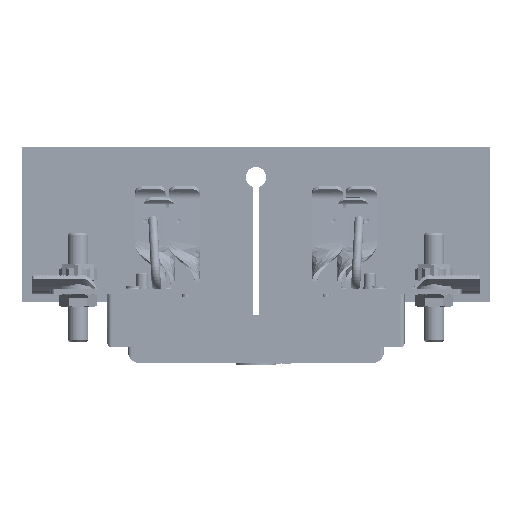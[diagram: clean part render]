
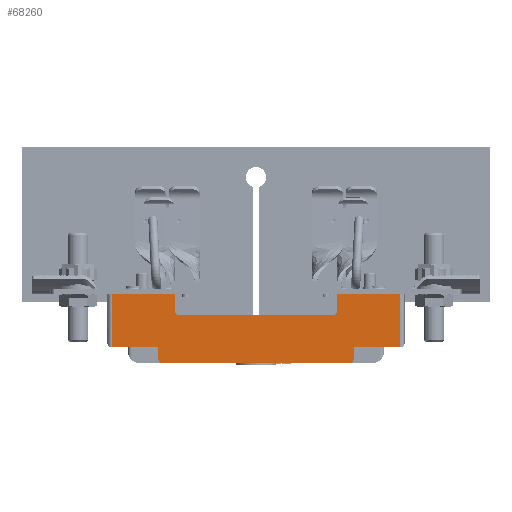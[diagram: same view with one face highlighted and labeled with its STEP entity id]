
A CAD part, left-side view. The second image highlights one B-rep face of the part: STEP entity #68260.
In plain terms, the highlighted planar face has unit normal (-1, 0, 0).
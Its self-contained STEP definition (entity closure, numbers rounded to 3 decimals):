
#569 = DIRECTION ( 'NONE',  ( 0., -1., 0. ) ) ;
#1779 = ORIENTED_EDGE ( 'NONE', *, *, #29269, .T. ) ;
#1979 = DIRECTION ( 'NONE',  ( -1., 0., 0. ) ) ;
#2095 = LINE ( 'NONE', #80307, #33996 ) ;
#2219 = CARTESIAN_POINT ( 'NONE',  ( -79., 48., 2. ) ) ;
#2255 = LINE ( 'NONE', #43474, #64981 ) ;
#4709 = DIRECTION ( 'NONE',  ( 0., 0.61, 0.793 ) ) ;
#5246 = EDGE_CURVE ( 'NONE', #38274, #59413, #2255, .T. ) ;
#6075 = CARTESIAN_POINT ( 'NONE',  ( -79., -71., 8. ) ) ;
#6695 = EDGE_CURVE ( 'NONE', #12936, #75277, #81984, .T. ) ;
#6901 = ORIENTED_EDGE ( 'NONE', *, *, #30747, .T. ) ;
#7049 = DIRECTION ( 'NONE',  ( 0., 1., 0. ) ) ;
#7331 = ORIENTED_EDGE ( 'NONE', *, *, #13936, .T. ) ;
#8439 = CARTESIAN_POINT ( 'NONE',  ( -79., -73., 8. ) ) ;
#8487 = DIRECTION ( 'NONE',  ( -1., 0., 0. ) ) ;
#9185 = ORIENTED_EDGE ( 'NONE', *, *, #6695, .T. ) ;
#12341 = CARTESIAN_POINT ( 'NONE',  ( -79., -38.846, 24. ) ) ;
#12936 = VERTEX_POINT ( 'NONE', #74488 ) ;
#13936 = EDGE_CURVE ( 'NONE', #84881, #24533, #31200, .T. ) ;
#14599 = LINE ( 'NONE', #54294, #52817 ) ;
#14861 = CARTESIAN_POINT ( 'NONE',  ( -79., 46., 0. ) ) ;
#14871 = ORIENTED_EDGE ( 'NONE', *, *, #86168, .T. ) ;
#15048 = DIRECTION ( 'NONE',  ( 0., 0., -1. ) ) ;
#15470 = CARTESIAN_POINT ( 'NONE',  ( -79., 40., 34. ) ) ;
#15835 = DIRECTION ( 'NONE',  ( 0., 1., 0. ) ) ;
#16181 = EDGE_CURVE ( 'NONE', #25002, #84881, #99611, .T. ) ;
#16747 = DIRECTION ( 'NONE',  ( 0., 1., 0. ) ) ;
#18052 = DIRECTION ( 'NONE',  ( 0., 0., -1. ) ) ;
#19697 = CARTESIAN_POINT ( 'NONE',  ( -79., 38.846, 24. ) ) ;
#20166 = CARTESIAN_POINT ( 'NONE',  ( -79., 40., 25.5 ) ) ;
#20670 = AXIS2_PLACEMENT_3D ( 'NONE', #41168, #1979, #56975 ) ;
#21315 = CARTESIAN_POINT ( 'NONE',  ( -79., 40., 25.5 ) ) ;
#21333 = VECTOR ( 'NONE', #50559, 1000. ) ;
#24533 = VERTEX_POINT ( 'NONE', #63570 ) ;
#24707 = DIRECTION ( 'NONE',  ( 0., 1., 0. ) ) ;
#25002 = VERTEX_POINT ( 'NONE', #88113 ) ;
#25062 = CARTESIAN_POINT ( 'NONE',  ( -79., -38.846, 24. ) ) ;
#26251 = LINE ( 'NONE', #61420, #95026 ) ;
#26933 = CARTESIAN_POINT ( 'NONE',  ( -79., 48., 0. ) ) ;
#27478 = ORIENTED_EDGE ( 'NONE', *, *, #72237, .T. ) ;
#28843 = CARTESIAN_POINT ( 'NONE',  ( -79., 59., 6. ) ) ;
#28850 = VECTOR ( 'NONE', #81096, 1000. ) ;
#29001 = VECTOR ( 'NONE', #97583, 1000. ) ;
#29092 = CIRCLE ( 'NONE', #20670, 2. ) ;
#29269 = EDGE_CURVE ( 'NONE', #75277, #83732, #58473, .T. ) ;
#30747 = EDGE_CURVE ( 'NONE', #24533, #55169, #26251, .T. ) ;
#31200 = LINE ( 'NONE', #79766, #21333 ) ;
#33996 = VECTOR ( 'NONE', #16747, 1000. ) ;
#34117 = VERTEX_POINT ( 'NONE', #12341 ) ;
#34501 = EDGE_CURVE ( 'NONE', #39991, #38274, #85896, .T. ) ;
#36316 = VECTOR ( 'NONE', #24707, 1000. ) ;
#38274 = VERTEX_POINT ( 'NONE', #21315 ) ;
#39991 = VERTEX_POINT ( 'NONE', #19697 ) ;
#40222 = ORIENTED_EDGE ( 'NONE', *, *, #101407, .T. ) ;
#41168 = CARTESIAN_POINT ( 'NONE',  ( -79., -46., 2. ) ) ;
#41596 = VERTEX_POINT ( 'NONE', #2219 ) ;
#43474 = CARTESIAN_POINT ( 'NONE',  ( -79., 40., 25.5 ) ) ;
#44055 = DIRECTION ( 'NONE',  ( 0., 0., -1. ) ) ;
#44074 = AXIS2_PLACEMENT_3D ( 'NONE', #28843, #59877, #44055 ) ;
#44765 = ORIENTED_EDGE ( 'NONE', *, *, #49674, .T. ) ;
#46903 = FACE_OUTER_BOUND ( 'NONE', #79449, .T. ) ;
#47430 = ORIENTED_EDGE ( 'NONE', *, *, #100921, .T. ) ;
#48355 = EDGE_CURVE ( 'NONE', #55169, #51255, #14599, .T. ) ;
#49674 = EDGE_CURVE ( 'NONE', #60696, #25002, #82070, .T. ) ;
#50559 = DIRECTION ( 'NONE',  ( 0., 0., 1. ) ) ;
#50565 = CARTESIAN_POINT ( 'NONE',  ( -79., -40., 25.5 ) ) ;
#50615 = CARTESIAN_POINT ( 'NONE',  ( -79., -48., 2. ) ) ;
#50878 = ORIENTED_EDGE ( 'NONE', *, *, #16181, .T. ) ;
#51234 = EDGE_CURVE ( 'NONE', #51255, #34117, #83188, .T. ) ;
#51255 = VERTEX_POINT ( 'NONE', #50565 ) ;
#52817 = VECTOR ( 'NONE', #15048, 1000. ) ;
#54294 = CARTESIAN_POINT ( 'NONE',  ( -79., -40., 25.5 ) ) ;
#54618 = CARTESIAN_POINT ( 'NONE',  ( -79., 46., 2. ) ) ;
#54856 = CARTESIAN_POINT ( 'NONE',  ( -79., 71., 8. ) ) ;
#55169 = VERTEX_POINT ( 'NONE', #62481 ) ;
#56098 = LINE ( 'NONE', #25062, #36316 ) ;
#56975 = DIRECTION ( 'NONE',  ( 0., 0., -1. ) ) ;
#58473 = LINE ( 'NONE', #96203, #28850 ) ;
#59413 = VERTEX_POINT ( 'NONE', #15470 ) ;
#59877 = DIRECTION ( 'NONE',  ( 1., 0., 0. ) ) ;
#59975 = LINE ( 'NONE', #62947, #101699 ) ;
#60696 = VERTEX_POINT ( 'NONE', #50615 ) ;
#61420 = CARTESIAN_POINT ( 'NONE',  ( -79., 59., 34. ) ) ;
#62481 = CARTESIAN_POINT ( 'NONE',  ( -79., -40., 34. ) ) ;
#62947 = CARTESIAN_POINT ( 'NONE',  ( -79., 59., 34. ) ) ;
#63570 = CARTESIAN_POINT ( 'NONE',  ( -79., -71., 34. ) ) ;
#64173 = ORIENTED_EDGE ( 'NONE', *, *, #69022, .T. ) ;
#64981 = VECTOR ( 'NONE', #82943, 1000. ) ;
#66543 = VECTOR ( 'NONE', #18052, 1000. ) ;
#68260 = ADVANCED_FACE ( 'NONE', ( #46903 ), #92054, .F. ) ;
#68687 = VECTOR ( 'NONE', #4709, 1000. ) ;
#68814 = VECTOR ( 'NONE', #569, 1000. ) ;
#69022 = EDGE_CURVE ( 'NONE', #83732, #41596, #87377, .T. ) ;
#71762 = AXIS2_PLACEMENT_3D ( 'NONE', #54618, #8487, #87154 ) ;
#72237 = EDGE_CURVE ( 'NONE', #34117, #39991, #56098, .T. ) ;
#74488 = CARTESIAN_POINT ( 'NONE',  ( -79., 71., 34. ) ) ;
#75277 = VERTEX_POINT ( 'NONE', #90232 ) ;
#75696 = CARTESIAN_POINT ( 'NONE',  ( -79., -46., 0. ) ) ;
#77715 = VERTEX_POINT ( 'NONE', #75696 ) ;
#79449 = EDGE_LOOP ( 'NONE', ( #84959, #14871, #44765, #50878, #7331, #6901, #87572, #80910, #27478, #89788, #82558, #47430, #9185, #1779, #64173, #40222 ) ) ;
#79766 = CARTESIAN_POINT ( 'NONE',  ( -79., -71., 34. ) ) ;
#80307 = CARTESIAN_POINT ( 'NONE',  ( -79., -63., 0. ) ) ;
#80801 = VECTOR ( 'NONE', #82922, 1000. ) ;
#80910 = ORIENTED_EDGE ( 'NONE', *, *, #51234, .T. ) ;
#81096 = DIRECTION ( 'NONE',  ( 0., -1., 0. ) ) ;
#81984 = LINE ( 'NONE', #54856, #88081 ) ;
#82070 = LINE ( 'NONE', #91783, #80801 ) ;
#82558 = ORIENTED_EDGE ( 'NONE', *, *, #5246, .T. ) ;
#82922 = DIRECTION ( 'NONE',  ( 0., 0., 1. ) ) ;
#82943 = DIRECTION ( 'NONE',  ( 0., 0., 1. ) ) ;
#83188 = LINE ( 'NONE', #97257, #29001 ) ;
#83732 = VERTEX_POINT ( 'NONE', #93382 ) ;
#84881 = VERTEX_POINT ( 'NONE', #6075 ) ;
#84959 = ORIENTED_EDGE ( 'NONE', *, *, #94337, .F. ) ;
#85896 = LINE ( 'NONE', #20166, #68687 ) ;
#86168 = EDGE_CURVE ( 'NONE', #77715, #60696, #29092, .T. ) ;
#87154 = DIRECTION ( 'NONE',  ( 0., 0., -1. ) ) ;
#87377 = LINE ( 'NONE', #26933, #66543 ) ;
#87572 = ORIENTED_EDGE ( 'NONE', *, *, #48355, .T. ) ;
#88081 = VECTOR ( 'NONE', #94950, 1000. ) ;
#88113 = CARTESIAN_POINT ( 'NONE',  ( -79., -48., 8. ) ) ;
#89788 = ORIENTED_EDGE ( 'NONE', *, *, #34501, .T. ) ;
#90232 = CARTESIAN_POINT ( 'NONE',  ( -79., 71., 8. ) ) ;
#90553 = CIRCLE ( 'NONE', #71762, 2. ) ;
#91783 = CARTESIAN_POINT ( 'NONE',  ( -79., -48., 0. ) ) ;
#92054 = PLANE ( 'NONE',  #44074 ) ;
#93382 = CARTESIAN_POINT ( 'NONE',  ( -79., 48., 8. ) ) ;
#94337 = EDGE_CURVE ( 'NONE', #77715, #100554, #2095, .T. ) ;
#94950 = DIRECTION ( 'NONE',  ( 0., 0., -1. ) ) ;
#95026 = VECTOR ( 'NONE', #7049, 1000. ) ;
#96203 = CARTESIAN_POINT ( 'NONE',  ( -79., 48., 8. ) ) ;
#97257 = CARTESIAN_POINT ( 'NONE',  ( -79., -38.846, 24. ) ) ;
#97583 = DIRECTION ( 'NONE',  ( 0., 0.61, -0.793 ) ) ;
#99611 = LINE ( 'NONE', #8439, #68814 ) ;
#100554 = VERTEX_POINT ( 'NONE', #14861 ) ;
#100921 = EDGE_CURVE ( 'NONE', #59413, #12936, #59975, .T. ) ;
#101407 = EDGE_CURVE ( 'NONE', #41596, #100554, #90553, .T. ) ;
#101699 = VECTOR ( 'NONE', #15835, 1000. ) ;
